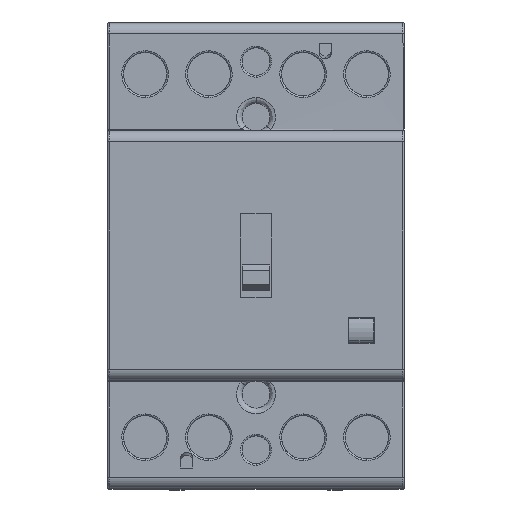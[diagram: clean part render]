
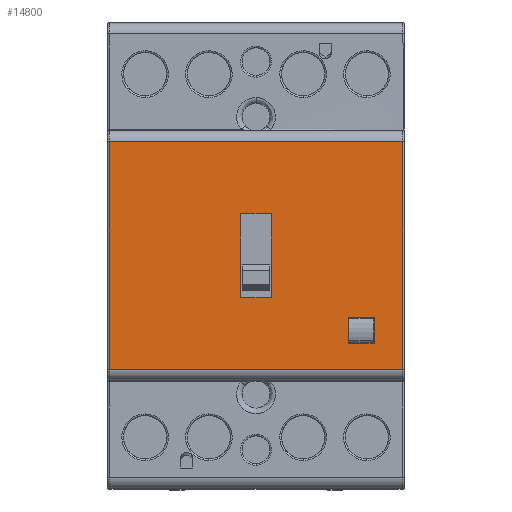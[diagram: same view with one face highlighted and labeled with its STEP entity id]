
A CAD part, top view. The second image highlights one B-rep face of the part: STEP entity #14800.
In plain terms, the highlighted planar face has unit normal (0, 0, 1).
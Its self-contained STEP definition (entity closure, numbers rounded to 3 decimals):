
#8 = CARTESIAN_POINT ( 'NONE',  ( 0.25, 19.7, 65.5 ) ) ;
#383 = VERTEX_POINT ( 'NONE', #32205 ) ;
#395 = VERTEX_POINT ( 'NONE', #35402 ) ;
#490 = CARTESIAN_POINT ( 'NONE',  ( 53.25, 19.7, 65.5 ) ) ;
#703 = DIRECTION ( 'NONE',  ( 0., 1., 0. ) ) ;
#829 = LINE ( 'NONE', #13376, #18707 ) ;
#1136 = LINE ( 'NONE', #14321, #36856 ) ;
#1409 = CARTESIAN_POINT ( 'NONE',  ( 29.5, 49.7, 65.5 ) ) ;
#2847 = FACE_BOUND ( 'NONE', #10335, .T. ) ;
#2972 = EDGE_CURVE ( 'NONE', #6549, #23441, #41363, .T. ) ;
#3275 = CARTESIAN_POINT ( 'NONE',  ( 53.5, 19.7, 65.5 ) ) ;
#3538 = CARTESIAN_POINT ( 'NONE',  ( 48.05, 26.3, 65.5 ) ) ;
#3553 = CARTESIAN_POINT ( 'NONE',  ( 43.45, 26.3, 65.5 ) ) ;
#3825 = AXIS2_PLACEMENT_3D ( 'NONE', #3275, #39011, #15818 ) ;
#4101 = LINE ( 'NONE', #490, #13837 ) ;
#4453 = ORIENTED_EDGE ( 'NONE', *, *, #7471, .T. ) ;
#4563 = ORIENTED_EDGE ( 'NONE', *, *, #7175, .T. ) ;
#4721 = LINE ( 'NONE', #36655, #37950 ) ;
#5133 = LINE ( 'NONE', #28321, #33993 ) ;
#5406 = CARTESIAN_POINT ( 'NONE',  ( 48.05, 19.7, 65.5 ) ) ;
#5415 = CARTESIAN_POINT ( 'NONE',  ( 53.25, 62.7, 65.5 ) ) ;
#5472 = VECTOR ( 'NONE', #5572, 1000. ) ;
#5572 = DIRECTION ( 'NONE',  ( -1., 0., 0. ) ) ;
#5762 = DIRECTION ( 'NONE',  ( -1., 0., 0. ) ) ;
#5801 = VERTEX_POINT ( 'NONE', #29655 ) ;
#6059 = EDGE_CURVE ( 'NONE', #383, #5801, #35067, .T. ) ;
#6549 = VERTEX_POINT ( 'NONE', #27478 ) ;
#7097 = PLANE ( 'NONE',  #3825 ) ;
#7175 = EDGE_CURVE ( 'NONE', #19786, #29181, #36976, .T. ) ;
#7471 = EDGE_CURVE ( 'NONE', #31017, #19364, #38431, .T. ) ;
#8182 = EDGE_CURVE ( 'NONE', #5801, #19364, #40018, .T. ) ;
#10335 = EDGE_LOOP ( 'NONE', ( #31567, #20137, #10690, #4453 ) ) ;
#10529 = EDGE_CURVE ( 'NONE', #37559, #6549, #24658, .T. ) ;
#10690 = ORIENTED_EDGE ( 'NONE', *, *, #31576, .T. ) ;
#10865 = CARTESIAN_POINT ( 'NONE',  ( 24., 34.7, 65.5 ) ) ;
#11332 = ORIENTED_EDGE ( 'NONE', *, *, #29703, .T. ) ;
#11400 = CARTESIAN_POINT ( 'NONE',  ( 43.45, 19.7, 65.5 ) ) ;
#11494 = VECTOR ( 'NONE', #30430, 1000. ) ;
#11552 = CARTESIAN_POINT ( 'NONE',  ( 0.25, 62.7, 65.5 ) ) ;
#11733 = EDGE_CURVE ( 'NONE', #29563, #395, #4721, .T. ) ;
#12430 = EDGE_CURVE ( 'NONE', #12785, #29563, #829, .T. ) ;
#12721 = ORIENTED_EDGE ( 'NONE', *, *, #12430, .T. ) ;
#12785 = VERTEX_POINT ( 'NONE', #3553 ) ;
#13199 = ORIENTED_EDGE ( 'NONE', *, *, #2972, .T. ) ;
#13376 = CARTESIAN_POINT ( 'NONE',  ( 43.45, 19.7, 65.5 ) ) ;
#13425 = VECTOR ( 'NONE', #18857, 1000. ) ;
#13837 = VECTOR ( 'NONE', #703, 1000. ) ;
#14091 = ORIENTED_EDGE ( 'NONE', *, *, #22176, .T. ) ;
#14220 = DIRECTION ( 'NONE',  ( 1., 0., 0. ) ) ;
#14321 = CARTESIAN_POINT ( 'NONE',  ( 24., 49.7, 65.5 ) ) ;
#14597 = LINE ( 'NONE', #11400, #22783 ) ;
#14800 = ADVANCED_FACE ( 'NONE', ( #36252, #16027, #2847 ), #7097, .T. ) ;
#15143 = DIRECTION ( 'NONE',  ( 1., 0., 0. ) ) ;
#15818 = DIRECTION ( 'NONE',  ( 0., 1., 0. ) ) ;
#16027 = FACE_BOUND ( 'NONE', #36274, .T. ) ;
#16134 = VECTOR ( 'NONE', #34550, 1000. ) ;
#17698 = ORIENTED_EDGE ( 'NONE', *, *, #36087, .T. ) ;
#18318 = CARTESIAN_POINT ( 'NONE',  ( 0.25, 21.7, 65.5 ) ) ;
#18707 = VECTOR ( 'NONE', #23376, 1000. ) ;
#18857 = DIRECTION ( 'NONE',  ( 1., 0., 0. ) ) ;
#19364 = VERTEX_POINT ( 'NONE', #27999 ) ;
#19786 = VERTEX_POINT ( 'NONE', #18318 ) ;
#20137 = ORIENTED_EDGE ( 'NONE', *, *, #6059, .F. ) ;
#20992 = CARTESIAN_POINT ( 'NONE',  ( 53.25, 21.7, 65.5 ) ) ;
#22176 = EDGE_CURVE ( 'NONE', #395, #37559, #14597, .T. ) ;
#22180 = VECTOR ( 'NONE', #14220, 1000. ) ;
#22529 = CARTESIAN_POINT ( 'NONE',  ( 24., 49.7, 65.5 ) ) ;
#22783 = VECTOR ( 'NONE', #27776, 1000. ) ;
#23376 = DIRECTION ( 'NONE',  ( 0., 1., 0. ) ) ;
#23441 = VERTEX_POINT ( 'NONE', #3538 ) ;
#24444 = VERTEX_POINT ( 'NONE', #11552 ) ;
#24658 = LINE ( 'NONE', #37437, #11494 ) ;
#25300 = ORIENTED_EDGE ( 'NONE', *, *, #10529, .T. ) ;
#26145 = EDGE_CURVE ( 'NONE', #24444, #19786, #35962, .T. ) ;
#26871 = CARTESIAN_POINT ( 'NONE',  ( 43.45, 26.67, 65.5 ) ) ;
#27478 = CARTESIAN_POINT ( 'NONE',  ( 48.05, 31.1, 65.5 ) ) ;
#27776 = DIRECTION ( 'NONE',  ( 0., 1., 0. ) ) ;
#27999 = CARTESIAN_POINT ( 'NONE',  ( 29.5, 34.7, 65.5 ) ) ;
#28321 = CARTESIAN_POINT ( 'NONE',  ( 53.5, 62.7, 65.5 ) ) ;
#28851 = DIRECTION ( 'NONE',  ( 0., -1., 0. ) ) ;
#29181 = VERTEX_POINT ( 'NONE', #20992 ) ;
#29563 = VERTEX_POINT ( 'NONE', #26871 ) ;
#29655 = CARTESIAN_POINT ( 'NONE',  ( 24., 34.7, 65.5 ) ) ;
#29703 = EDGE_CURVE ( 'NONE', #23441, #12785, #37293, .T. ) ;
#30430 = DIRECTION ( 'NONE',  ( 1., 0., 0. ) ) ;
#31017 = VERTEX_POINT ( 'NONE', #1409 ) ;
#31224 = ORIENTED_EDGE ( 'NONE', *, *, #11733, .T. ) ;
#31344 = EDGE_LOOP ( 'NONE', ( #4563, #31622, #17698, #38340 ) ) ;
#31567 = ORIENTED_EDGE ( 'NONE', *, *, #8182, .F. ) ;
#31576 = EDGE_CURVE ( 'NONE', #383, #31017, #1136, .T. ) ;
#31622 = ORIENTED_EDGE ( 'NONE', *, *, #40854, .T. ) ;
#32004 = CARTESIAN_POINT ( 'NONE',  ( 43.45, 31.1, 65.5 ) ) ;
#32205 = CARTESIAN_POINT ( 'NONE',  ( 24., 49.7, 65.5 ) ) ;
#32555 = VERTEX_POINT ( 'NONE', #5415 ) ;
#33390 = DIRECTION ( 'NONE',  ( 0., -1., 0. ) ) ;
#33993 = VECTOR ( 'NONE', #5762, 1000. ) ;
#34070 = DIRECTION ( 'NONE',  ( 0., 1., 0. ) ) ;
#34550 = DIRECTION ( 'NONE',  ( 0., -1., 0. ) ) ;
#35067 = LINE ( 'NONE', #22529, #35257 ) ;
#35257 = VECTOR ( 'NONE', #35500, 1000. ) ;
#35402 = CARTESIAN_POINT ( 'NONE',  ( 43.45, 30.93, 65.5 ) ) ;
#35452 = CARTESIAN_POINT ( 'NONE',  ( 29.5, 49.7, 65.5 ) ) ;
#35500 = DIRECTION ( 'NONE',  ( 0., -1., 0. ) ) ;
#35962 = LINE ( 'NONE', #8, #36585 ) ;
#36087 = EDGE_CURVE ( 'NONE', #32555, #24444, #5133, .T. ) ;
#36252 = FACE_OUTER_BOUND ( 'NONE', #31344, .T. ) ;
#36274 = EDGE_LOOP ( 'NONE', ( #12721, #31224, #14091, #25300, #13199, #11332 ) ) ;
#36585 = VECTOR ( 'NONE', #33390, 1000. ) ;
#36655 = CARTESIAN_POINT ( 'NONE',  ( 43.45, 19.7, 65.5 ) ) ;
#36856 = VECTOR ( 'NONE', #15143, 1000. ) ;
#36976 = LINE ( 'NONE', #39558, #22180 ) ;
#37293 = LINE ( 'NONE', #41098, #5472 ) ;
#37437 = CARTESIAN_POINT ( 'NONE',  ( 53.5, 31.1, 65.5 ) ) ;
#37559 = VERTEX_POINT ( 'NONE', #32004 ) ;
#37950 = VECTOR ( 'NONE', #34070, 1000. ) ;
#38340 = ORIENTED_EDGE ( 'NONE', *, *, #26145, .T. ) ;
#38431 = LINE ( 'NONE', #35452, #41904 ) ;
#39011 = DIRECTION ( 'NONE',  ( 0., 0., 1. ) ) ;
#39558 = CARTESIAN_POINT ( 'NONE',  ( 53.5, 21.7, 65.5 ) ) ;
#40018 = LINE ( 'NONE', #10865, #13425 ) ;
#40854 = EDGE_CURVE ( 'NONE', #29181, #32555, #4101, .T. ) ;
#41098 = CARTESIAN_POINT ( 'NONE',  ( 53.5, 26.3, 65.5 ) ) ;
#41363 = LINE ( 'NONE', #5406, #16134 ) ;
#41904 = VECTOR ( 'NONE', #28851, 1000. ) ;
